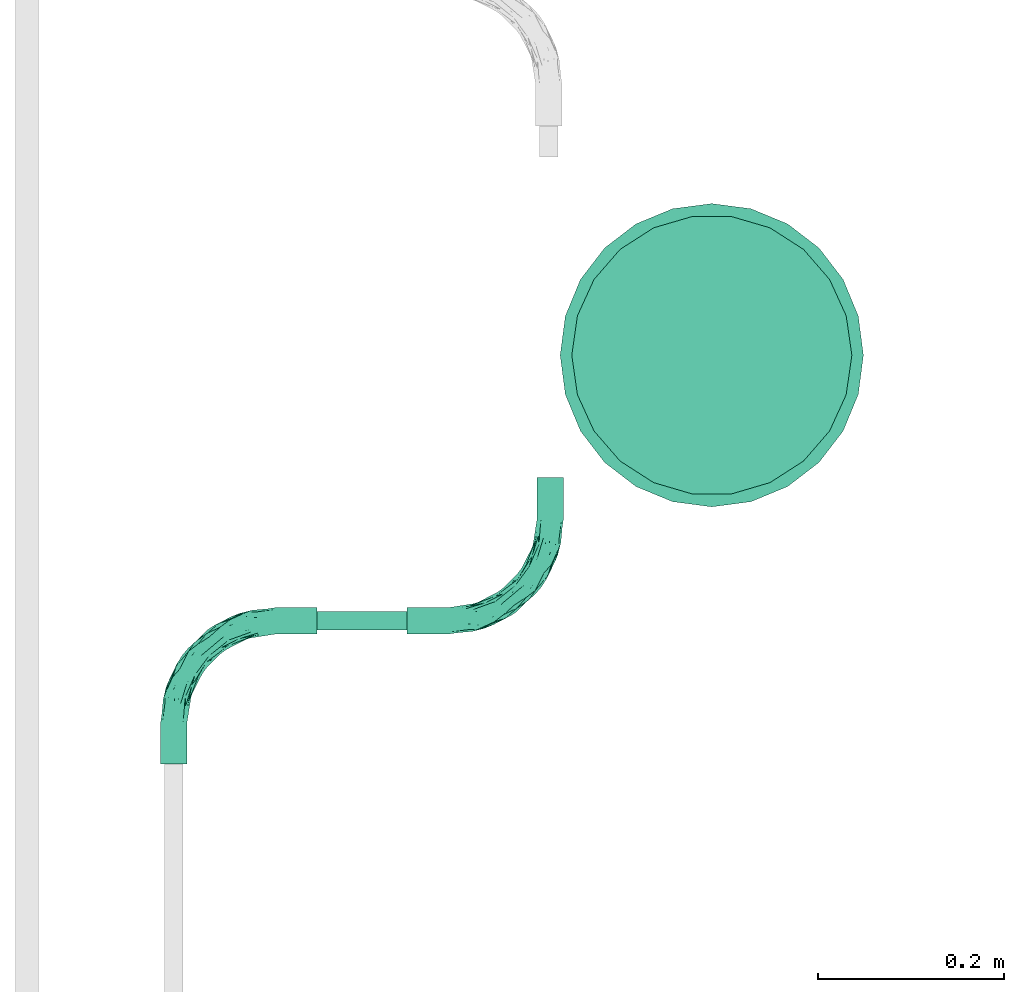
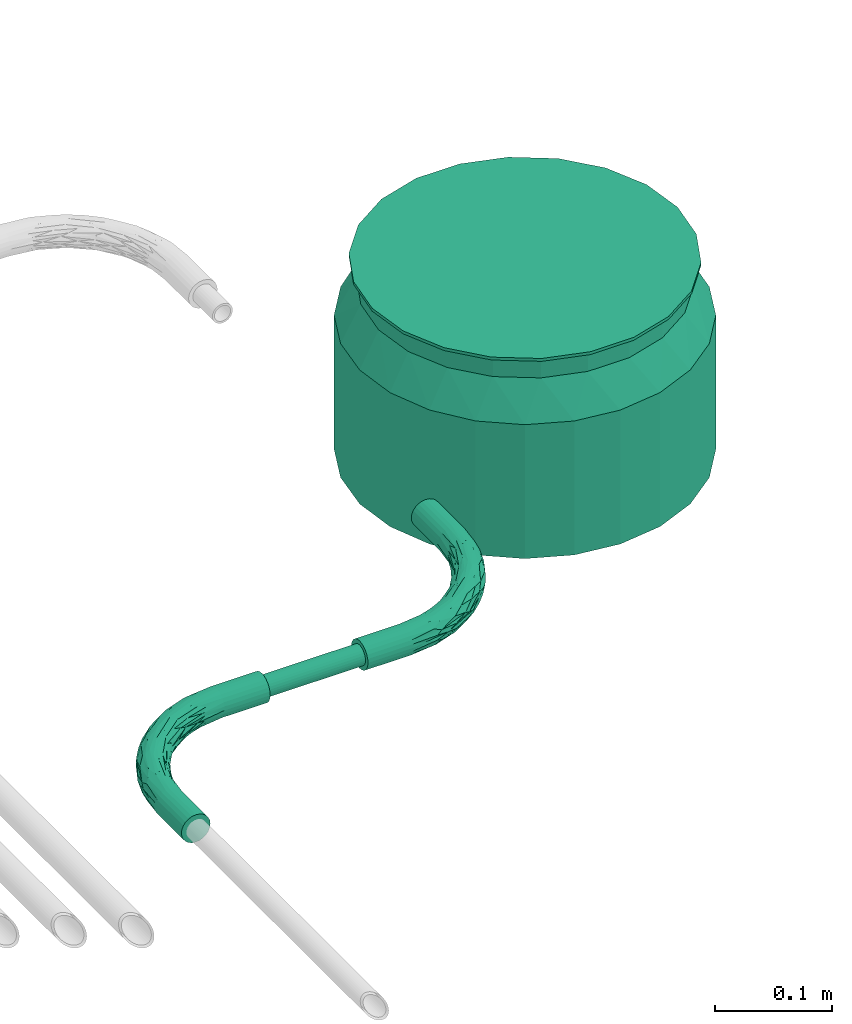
# One storey, part 5 of 51: 2 flow fittings, 1 flow segment, 1 flow terminal.
"""IFC2X3 building model written with IfcOpenShell, lengths in millimetres."""

import ifcopenshell
import ifcopenshell.guid

model = None  # the IFC model being written
_history = None  # IfcOwnerHistory: only IFC2X3 demands one
_inside = {}  # id of a spatial element -> (the spatial element, [elements in it])
_under = {}  # id of a project, library or spatial element -> (it, [spatial elements below it])
_declared = {}  # id of a project -> (the project, [libraries it declares])
_typed = {}  # id of a type object -> (the type object, [elements of that type])
_made_of = {}  # id of a material, layer set ... -> (it, [elements and type objects made of it])


def new_model(schema):
    """Start an empty IFC model of exactly this schema.

    Asked for "IFC4X3", IfcOpenShell would pick the latest addendum, in which some entities
    have other attributes; the version numbers below select the first issue.
    IFC2X3 requires an IfcOwnerHistory on every rooted entity: one is made here for all.
    """
    global model, _history
    if schema == "IFC4X3":
        model = ifcopenshell.file(schema_version=(4, 3, 0, 0))
    else:
        model = ifcopenshell.file(schema=schema)
    _inside.clear()
    _under.clear()
    _declared.clear()
    _typed.clear()
    _made_of.clear()
    _history = None
    if model.schema == "IFC2X3":
        org = make("IfcOrganization", Name="unknown")
        user = make(
            "IfcPersonAndOrganization",
            ThePerson=make("IfcPerson", FamilyName="unknown"),
            TheOrganization=org,
        )
        app = make(
            "IfcApplication",
            ApplicationDeveloper=org,
            Version="unknown",
            ApplicationFullName="unknown",
            ApplicationIdentifier="unknown",
        )
        _history = make(
            "IfcOwnerHistory",
            OwningUser=user,
            OwningApplication=app,
            ChangeAction="ADDED",
            CreationDate=0,
        )
    return model


def make(cls, **values):
    """One entity of the class cls with the attributes given. An attribute that is None is left unset."""
    return model.create_entity(
        cls, **{name: value for name, value in values.items() if value is not None}
    )


def entity(cls, *values):
    """Any entity or typed value of the class cls, its attributes in the order of the schema. None: left unset."""
    e = model.create_entity(cls)
    for i, value in enumerate(values):
        if value is not None:
            e[i] = value
    return e


def rooted(cls, **values):
    """An entity with a GlobalId (a new one), such as an element, a storey or a relation."""
    return make(cls, GlobalId=ifcopenshell.guid.new(), OwnerHistory=_history, **values)


def si_unit(unit_type, name, prefix=None):
    """IfcSIUnit, for example si_unit("LENGTHUNIT", "METRE", prefix="MILLI")."""
    return make("IfcSIUnit", UnitType=unit_type, Prefix=prefix, Name=name)


def converted_unit(unit_type, name, factor, base, dimensions=None, offset=None):
    """IfcConversionBasedUnit, such as the inch: factor (a typed value) times the base unit."""
    return make(
        "IfcConversionBasedUnit"
        if offset is None
        else "IfcConversionBasedUnitWithOffset",
        ConversionOffset=offset,
        Dimensions=None
        if dimensions is None
        else entity("IfcDimensionalExponents", *dimensions),
        UnitType=unit_type,
        Name=name,
        ConversionFactor=make(
            "IfcMeasureWithUnit", ValueComponent=factor, UnitComponent=base
        ),
    )


def derived_unit(unit_type, elements):
    """IfcDerivedUnit: a product of units, each with its exponent."""
    return make(
        "IfcDerivedUnit",
        Elements=[
            make("IfcDerivedUnitElement", Unit=unit, Exponent=power)
            for unit, power in elements
        ],
        UnitType=unit_type,
    )


def assignment(units):
    """IfcUnitAssignment: the units of a project."""
    return None if units is None else make("IfcUnitAssignment", Units=units)


def point(xyz):
    """IfcCartesianPoint."""
    return None if xyz is None else make("IfcCartesianPoint", Coordinates=xyz)


def direction(xyz):
    """IfcDirection."""
    return None if xyz is None else make("IfcDirection", DirectionRatios=xyz)


def frame(location, z_axis=None, x_axis=None):
    """IfcAxis2Placement3D, a coordinate frame: its origin and axes. An axis left out is left unset."""
    return make(
        "IfcAxis2Placement3D",
        Location=point(location),
        Axis=direction(z_axis),
        RefDirection=direction(x_axis),
    )


def frame_2d(location, x_axis=None):
    """IfcAxis2Placement2D, a coordinate frame in the plane: its origin and x axis."""
    return make(
        "IfcAxis2Placement2D", Location=point(location), RefDirection=direction(x_axis)
    )


def origin_with_axes():
    """The frame at (0, 0, 0) with the z axis (0, 0, 1) and the x axis (1, 0, 0) written out."""
    return frame((0.0, 0.0, 0.0), z_axis=(0.0, 0.0, 1.0), x_axis=(1.0, 0.0, 0.0))


def origin_2d_with_axis():
    """The frame at (0, 0) in the plane with the x axis (1, 0) written out."""
    return frame_2d((0.0, 0.0), x_axis=(1.0, 0.0))


def place(relative_to, where):
    """IfcLocalPlacement: puts the frame where relative to a parent placement (None: the world)."""
    return make(
        "IfcLocalPlacement", PlacementRelTo=relative_to, RelativePlacement=where
    )


def context(
    kind, dimensions, precision=None, world=None, true_north=None, identifier=None
):
    """IfcGeometricRepresentationContext, for example the 3D "Model" context."""
    return make(
        "IfcGeometricRepresentationContext",
        ContextIdentifier=identifier,
        ContextType=kind,
        CoordinateSpaceDimension=dimensions,
        Precision=precision,
        WorldCoordinateSystem=world,
        TrueNorth=true_north,
    )


def subcontext(parent, identifier, kind, view, scale=None):
    """IfcGeometricRepresentationSubContext, for example "Body" below "Model"."""
    return make(
        "IfcGeometricRepresentationSubContext",
        ContextIdentifier=identifier,
        ContextType=kind,
        ParentContext=parent,
        TargetScale=scale,
        TargetView=view,
    )


def project(units=None, contexts=None):
    """IfcProject with its units and contexts."""
    return rooted(
        "IfcProject",
        Name="project",
        RepresentationContexts=contexts,
        UnitsInContext=assignment(units),
    )


def spatial(cls, under=None, at=None, **own):
    """A site, building, storey or space (cls), placed at a placement, below another one or the project."""
    s = rooted(cls, ObjectPlacement=at, **own)
    if under is not None:
        _under.setdefault(under.id(), (under, []))[1].append(s)
    return s


def profile(cls, at=None, kind="AREA", **sizes):
    """A parametric profile (cls). Its sizes go by their IFC names, for example OverallWidth=200.0."""
    return make(cls, ProfileType=kind, Position=at, **sizes)


def hollow_circle(**sizes):
    """IfcCircleHollowProfileDef."""
    return profile("IfcCircleHollowProfileDef", **sizes)


def extrude(swept, where, along, depth):
    """IfcExtrudedAreaSolid: the profile swept, set in the frame where, extruded along a direction by depth."""
    return make(
        "IfcExtrudedAreaSolid",
        SweptArea=swept,
        Position=where,
        ExtrudedDirection=direction(along),
        Depth=depth,
    )


def faces_of(points, faces, orient=None, outer=None):
    """IfcFace entities. A face is a list of loops; a loop is a list of indices into points, from 0.

    orient and outer hold one flag for each loop. By default every Orientation is true, the
    first loop of a face is its IfcFaceOuterBound and the others are IfcFaceBound.
    """
    made = []
    for i, loops in enumerate(faces):
        bounds = []
        for j, loop in enumerate(loops):
            is_outer = j == 0 if outer is None else outer[i][j]
            bounds.append(
                make(
                    "IfcFaceOuterBound" if is_outer else "IfcFaceBound",
                    Bound=make("IfcPolyLoop", Polygon=[points[k] for k in loop]),
                    Orientation=True if orient is None else orient[i][j],
                )
            )
        made.append(make("IfcFace", Bounds=bounds))
    return made


def open_shell(faces, orient=None, outer=None):
    """The faces of one IfcOpenShell. surface_model builds it on its shared points."""
    return ("IfcOpenShell", faces, orient, outer)


def surface_model(cls, points, shells):
    """IfcFaceBasedSurfaceModel or IfcShellBasedSurfaceModel (cls): surfaces that need not close."""
    shared = [point(p) for p in points]
    made = [make(c, CfsFaces=faces_of(shared, fs, o, b)) for c, fs, o, b in shells]
    if cls == "IfcFaceBasedSurfaceModel":
        return make(cls, FbsmFaces=made)
    return make(cls, SbsmBoundary=made)


def shape(context_of_items, identifier, shape_type, items):
    """IfcShapeRepresentation: the items that make up one representation, for example the "Body"."""
    return make(
        "IfcShapeRepresentation",
        ContextOfItems=context_of_items,
        RepresentationIdentifier=identifier,
        RepresentationType=shape_type,
        Items=items,
    )


def source(mapping_origin, context_of_items, identifier, shape_type, items):
    """IfcRepresentationMap: a shape defined once, which mapped items show again and again."""
    return make(
        "IfcRepresentationMap",
        MappingOrigin=mapping_origin,
        MappedRepresentation=shape(context_of_items, identifier, shape_type, items),
    )


def transform(
    local_origin,
    x_axis=None,
    y_axis=None,
    z_axis=None,
    scale=None,
    scale2=None,
    scale3=None,
    uniform=True,
):
    """IfcCartesianTransformationOperator3D, or its non-uniform kind. x_axis, y_axis, z_axis: its Axis1, 2, 3."""
    if uniform:
        return make(
            "IfcCartesianTransformationOperator3D",
            Axis1=direction(x_axis),
            Axis2=direction(y_axis),
            LocalOrigin=point(local_origin),
            Scale=scale,
            Axis3=direction(z_axis),
        )
    return make(
        "IfcCartesianTransformationOperator3DnonUniform",
        Axis1=direction(x_axis),
        Axis2=direction(y_axis),
        LocalOrigin=point(local_origin),
        Scale=scale,
        Axis3=direction(z_axis),
        Scale2=scale2,
        Scale3=scale3,
    )


def mapped(mapping_source, mapping_target):
    """IfcMappedItem: shows the shape of a source again, moved by a transform."""
    return make(
        "IfcMappedItem", MappingSource=mapping_source, MappingTarget=mapping_target
    )


def made_of(thing, what):
    """Note that an element or type object is made of a material, layer set ...; save() writes the relation."""
    if what is not None:
        _made_of.setdefault(what.id(), (what, []))[1].append(thing)
    return thing


def type_object(cls, material=None, **own):
    """A type object (cls), such as IfcWallType, which elements share."""
    return made_of(rooted(cls, **own), material)


def element(
    cls,
    number,
    at=None,
    inside=None,
    cuts=None,
    type_object=None,
    material=None,
    context=None,
    identifier="Body",
    shape_type=None,
    held_by="IfcProductDefinitionShape",
    body=None,
    shapes=None,
    **own,
):
    """One element of the class cls, such as IfcWall. Its Tag is "e" and its number.

    at: its placement. inside: the storey or other place that contains it. cuts: it is an
    opening in that element (IfcRelVoidsElement). A single representation is given by context,
    identifier, shape_type and body (its items); several are given by shapes. held_by: the class
    of the entity that holds the representations. save() writes the other relations.
    """
    e = rooted(cls, Tag="e%d" % number, ObjectPlacement=at, **own)
    if body is not None:
        shapes = [shape(context, identifier, shape_type, body)]
    if shapes is not None:
        e.Representation = make(held_by, Representations=shapes)
    if inside is not None:
        _inside.setdefault(inside.id(), (inside, []))[1].append(e)
    if cuts is not None:
        rooted(
            "IfcRelVoidsElement", RelatingBuildingElement=cuts, RelatedOpeningElement=e
        )
    if type_object is not None:
        _typed.setdefault(type_object.id(), (type_object, []))[1].append(e)
    return made_of(e, material)


def aggregate(whole, parts):
    """IfcRelAggregates: a whole, such as a stair, and the parts it consists of."""
    return rooted("IfcRelAggregates", RelatingObject=whole, RelatedObjects=parts)


def save(model, path):
    """Write the relations noted so far, then the file.

    IfcRelAggregates (storeys below a building ...), IfcRelContainedInSpatialStructure (elements
    in a storey), IfcRelDefinesByType, IfcRelAssociatesMaterial and IfcRelDeclares: one each for
    every whole, place, type object, material and project.
    """
    for whole, parts in _under.values():
        aggregate(whole, parts)
    for where, things in _inside.values():
        rooted(
            "IfcRelContainedInSpatialStructure",
            RelatedElements=things,
            RelatingStructure=where,
        )
    for kind, things in _typed.values():
        rooted("IfcRelDefinesByType", RelatedObjects=things, RelatingType=kind)
    for what, things in _made_of.values():
        rooted("IfcRelAssociatesMaterial", RelatedObjects=things, RelatingMaterial=what)
    for by, libraries in _declared.values():
        rooted("IfcRelDeclares", RelatingContext=by, RelatedDefinitions=libraries)
    model.write(path)


model = new_model("IFC2X3")

# Units and contexts
model_context = context("Model", 3, precision=0.01, world=frame((0.0, 4.29681676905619e-09, 0.0)), true_north=direction((4.01073788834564e-13, 1.0)))
plan_context = context("Plan", 3, precision=0.01, world=frame((0.0, 4.29681676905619e-09, 0.0)), true_north=direction((4.01073788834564e-13, 1.0)))
body_context = subcontext(model_context, "Body", "Model", "MODEL_VIEW")
ifc_project = project(units=[converted_unit("PLANEANGLEUNIT", "DEGREE", entity("IfcPositiveLengthMeasure", 0.0174532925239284), si_unit("PLANEANGLEUNIT", "RADIAN"), dimensions=[0, 0, 0, 0, 0, 0, 0]), si_unit("AREAUNIT", "SQUARE_METRE"), si_unit("LENGTHUNIT", "METRE", prefix="MILLI"), si_unit("MASSUNIT", "GRAM", prefix="KILO"), si_unit("POWERUNIT", "WATT"), si_unit("PRESSUREUNIT", "PASCAL"), si_unit("FORCEUNIT", "NEWTON", prefix="KILO"), si_unit("ELECTRICVOLTAGEUNIT", "VOLT"), si_unit("ELECTRICCURRENTUNIT", "AMPERE"), si_unit("THERMODYNAMICTEMPERATUREUNIT", "DEGREE_CELSIUS"), si_unit("TIMEUNIT", "SECOND"), si_unit("VOLUMEUNIT", "CUBIC_METRE"), derived_unit("LINEARVELOCITYUNIT", [(si_unit("LENGTHUNIT", "METRE"), 1), (si_unit("TIMEUNIT", "SECOND"), -1)]), derived_unit("VOLUMETRICFLOWRATEUNIT", [(si_unit("VOLUMEUNIT", "CUBIC_METRE"), 1), (si_unit("TIMEUNIT", "SECOND"), -1)]), derived_unit("THERMALTRANSMITTANCEUNIT", [(si_unit("POWERUNIT", "WATT"), 1), (si_unit("THERMODYNAMICTEMPERATUREUNIT", "KELVIN"), -1), (si_unit("AREAUNIT", "SQUARE_METRE"), -1)]), derived_unit("SOUNDPRESSUREUNIT", [(si_unit("PRESSUREUNIT", "PASCAL"), 1)])], contexts=[model_context, plan_context])

# Site, building, storey
site_placement = place(None, frame((0.0, -4.29681676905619e-09, 0.0), z_axis=(0.0, 0.0, 1.0), x_axis=(1.0, 0.0, 0.0)))
site = spatial("IfcSite", under=ifc_project, at=site_placement, Name="ENGM", CompositionType="ELEMENT")
building_placement = place(site_placement, frame((0.0, 4.29681676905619e-09, 0.0), z_axis=(0.0, 0.0, 1.0), x_axis=(1.0, 0.0, 0.0)))
building = spatial("IfcBuilding", under=site, at=building_placement, Name="TI", CompositionType="ELEMENT")
storey_placement = place(building_placement, frame((0.0, 0.0, 210900.0), z_axis=(0.0, 0.0, 1.0), x_axis=(1.0, 0.0, 0.0)))
storey = spatial("IfcBuildingStorey", under=building, at=storey_placement, Name="Nivå F", CompositionType="ELEMENT", Elevation=210900.0)

# Flow fittings
cable_carrier_fitting_type = type_object("IfcCableCarrierFittingType", Name="Trekkerør, glatt bend", PredefinedType="BEND")
shared_shape_1 = source(origin_with_axes(), body_context, "Body", "SurfaceModel", [
    surface_model("IfcShellBasedSurfaceModel", [(-154.55625, 0.0, -14.27109), (-154.55625, -13.78482, -3.69363), (-154.55625, 3.69363, -13.78482), (-154.55625, 7.13555, -12.35913), (-154.55625, 12.35913, -7.13555), (-154.55625, -14.27109, 0.0), (-154.55625, 10.09119, -10.09119), (-154.55625, -13.78482, 3.69363), (-154.55625, -10.09119, -10.09119), (-154.55625, -12.35913, -7.13555), (-154.55625, -7.13555, -12.35913), (-154.55625, -3.69363, -13.78482), (-154.55625, 13.78482, -3.69363), (-154.55625, 14.27109, 0.0), (-154.55625, -12.35913, 7.13555), (-154.55625, 13.78482, 3.69363), (-154.55625, 12.35913, 7.13555), (-154.55625, 7.13555, 12.35913), (-154.55625, -3.69363, 13.78482), (-154.55625, 10.09119, 10.09119), (-154.55625, 3.69363, 13.78482), (-154.55625, 0.0, 14.27109), (-154.55625, -10.09119, 10.09119), (-154.55625, -7.13555, 12.35913), (-109.53828, -14.27109, 0.0), (-109.53828, -13.78482, 3.69363), (-109.53828, -12.35913, 7.13555), (-109.53828, -10.09119, 10.09119), (-109.53828, -7.13555, 12.35913), (-109.53828, -3.69363, 13.78482), (-109.53828, 0.0, 14.27109), (-109.53828, 3.69363, 13.78482), (-109.53828, 7.13555, 12.35913), (-109.53828, 10.09119, 10.09119), (-109.53828, 12.35913, 7.13555), (-109.53828, 13.78482, 3.69363), (-109.53828, 14.27109, 0.0), (-109.53828, 13.78482, -3.69363), (-109.53828, 12.35913, -7.13555), (-109.53828, 10.09119, -10.09119), (-109.53828, 7.13555, -12.35913), (-109.53828, 3.69363, -13.78482), (-109.53828, 0.0, -14.27109), (-109.53828, -3.69363, -13.78482), (-109.53828, -7.13555, -12.35913), (-109.53828, -10.09119, -10.09119), (-109.53828, -12.35913, -7.13555), (-109.53828, -13.78482, -3.69363), (-3.69363, 109.53828, 13.78482), (-7.1534, 89.99414, 13.24855), (-5.52615, 80.75509, 14.17919), (-60.76988, -1.31586, 8.35584), (-86.74719, -9.26979, 8.53701), (-78.43143, -9.27777, 5.21969), (-54.57322, 16.38341, 14.20456), (-37.47603, 23.87443, 14.06701), (-28.15284, 38.55475, 14.18707), (-61.24691, 4.75102, 13.02092), (-78.33811, -4.70928, 11.16152), (-49.9274, 6.84288, 10.90618), (-95.50078, -12.04777, 0.0), (-71.27908, -8.21143, 0.0), (-84.10609, -11.40642, 2.49425), (-84.40829, 4.61635, 14.17552), (-21.30634, 35.06714, 12.98487), (-25.5172, 25.5172, 10.83717), (-6.52074, 51.84045, 11.43645), (-14.9351, 49.72791, 14.07022), (-36.13298, 13.4524, 8.61377), (-48.07555, 3.07814, 4.93607), (-22.8399, 22.8399, 5.72655), (-61.42092, -4.26023, 2.69213), (-43.25505, 5.21821, 2.45459), (-76.37759, 10.60152, 13.29307), (-84.26876, 11.72213, 11.45557), (-16.10152, 32.64981, 8.49548), (-91.7629, 12.84689, 8.81067), (-78.89232, 2.16712, 14.11264), (-86.94002, -3.39666, 13.1113), (-53.54164, 32.46551, 0.0), (-80.0991, 18.9338, 0.0), (-65.27277, 24.4813, 4.15685), (-70.11513, 19.34285, 8.96525), (-58.85951, 26.77111, 6.9074), (-87.03749, 15.77002, 5.64275), (-7.13555, 109.53828, 12.35913), (-10.09119, 109.53828, 10.09119), (-12.24312, 82.27842, 11.46622), (-88.43996, 16.36335, 2.74565), (-0.11486, 73.25678, 13.06442), (7.13555, 109.53828, 12.35913), (3.69363, 109.53828, 13.78482), (-41.93843, 41.93843, 3.06688), (-41.06778, 41.06778, 6.49711), (-12.84689, 91.7629, 8.81067), (-12.35913, 109.53828, 7.13555), (5.39094, 64.47541, 3.19158), (-3.07814, 48.07555, 4.93607), (-3.51803, 45.96754, 2.3263), (-36.76496, 9.37439, 0.0), (-23.06967, 23.06967, 0.0), (0.0, 109.53828, 14.27109), (-0.81133, 84.32322, 14.11955), (-41.69927, 29.72188, 13.44421), (12.35913, 109.53828, 7.13555), (9.27777, 78.43143, 5.21969), (13.78482, 109.53828, 3.69363), (-57.22502, 11.42573, 14.17543), (9.26979, 86.74719, 8.53701), (1.31586, 60.76988, 8.35584), (5.72038, 82.4285, 11.18319), (11.40642, 84.10609, 2.49425), (-59.15779, 20.7896, 12.14962), (-18.9338, 80.0991, 0.0), (-32.46551, 53.54164, 0.0), (-24.4813, 65.27277, 4.15685), (-16.36335, 88.43996, 2.74565), (-14.27109, 109.53828, 0.0), (-8.62571, 53.03293, 12.89354), (-13.78482, 109.53828, 3.69363), (-15.77002, 87.03749, 5.64275), (-37.83174, 37.83174, 11.72896), (-22.74629, 58.47709, 11.20332), (-35.02355, 44.66648, 9.39592), (-51.28798, 28.82677, 10.17947), (-14.20714, 66.91103, 13.32458), (10.09119, 109.53828, 10.09119), (12.04777, 95.50078, 0.0), (-26.77111, 58.85951, 6.9074), (-19.34285, 70.11513, 8.96525), (-22.27171, 49.8428, 13.75381), (-14.02071, 58.08047, 14.23303), (-38.19919, 17.37508, 12.43121), (-25.3167, 50.04426, 12.74411), (-58.12909, 18.65185, 13.32115), (-15.5265, 29.44086, 2.9254), (-54.02202, 0.58148, 0.0), (-9.37439, 36.76496, 0.0), (-0.58148, 54.02202, 0.0), (8.21143, 71.27908, 0.0), (14.27109, 109.53828, 0.0), (-82.27842, 12.24312, -11.46622), (-16.38341, 54.57322, -14.20456), (-23.87443, 37.47603, -14.06701), (-38.55475, 28.15284, -14.18707), (-91.7629, 12.84689, -8.81067), (-24.4813, 65.27277, -4.15685), (-88.43996, 16.36335, -2.74565), (-65.27277, 24.4813, -4.15685), (-87.03749, 15.77002, -5.64275), (12.35913, 109.53828, -7.13555), (13.78482, 109.53828, -3.69363), (9.27777, 78.43143, -5.21969), (-84.10609, -11.40642, -2.49425), (-61.42092, -4.26023, -2.69213), (-41.93843, 41.93843, -3.06688), (-4.61635, 84.40829, -14.17552), (-3.69363, 109.53828, -13.78482), (0.0, 109.53828, -14.27109), (-48.07555, 3.07814, -4.93607), (-78.43143, -9.27777, -5.21969), (-60.76988, -1.31586, -8.35584), (-82.4285, -5.72038, -11.18319), (-51.84045, 6.52074, -11.43645), (-86.74719, -9.26979, -8.53701), (3.39666, 86.94002, -13.1113), (4.70928, 78.33811, -11.16152), (-4.75102, 61.24691, -13.02092), (-3.51803, 45.96754, -2.3263), (-15.5265, 29.44086, -2.9254), (-73.25678, 0.11486, -13.06442), (11.40642, 84.10609, -2.49425), (-84.32322, 0.81133, -14.11955), (-11.42573, 57.22502, -14.17543), (-3.07814, 48.07555, -4.93607), (1.31586, 60.76988, -8.35584), (-89.99414, 7.1534, -13.24855), (-10.60152, 76.37759, -13.29307), (-6.84288, 49.9274, -10.90618), (-2.16712, 78.89232, -14.11264), (-13.4524, 36.13298, -8.61377), (-25.5172, 25.5172, -10.83717), (-13.78482, 109.53828, -3.69363), (-16.36335, 88.43996, -2.74565), (3.69363, 109.53828, -13.78482), (-26.77111, 58.85951, -6.9074), (-15.77002, 87.03749, -5.64275), (-19.34285, 70.11513, -8.96525), (-12.35913, 109.53828, -7.13555), (-80.75509, 5.52615, -14.17919), (10.09119, 109.53828, -10.09119), (9.26979, 86.74719, -8.53701), (-10.09119, 109.53828, -10.09119), (-7.13555, 109.53828, -12.35913), (-11.72213, 84.26876, -11.45557), (-35.06714, 21.30634, -12.98487), (-32.64981, 16.10152, -8.49548), (-41.06778, 41.06777, -6.49711), (-29.72188, 41.69927, -13.44421), (7.13555, 109.53828, -12.35913), (-58.47709, 22.74629, -11.20332), (-66.91103, 14.20714, -13.32458), (-22.8399, 22.8399, -5.72655), (-49.72791, 14.9351, -14.07022), (-44.66648, 35.02355, -9.39592), (-28.82677, 51.28798, -10.17947), (-37.83174, 37.83174, -11.72896), (-20.7896, 59.15779, -12.14962), (-43.25505, 5.21821, -2.45459), (-53.03293, 8.62571, -12.89354), (-12.84689, 91.7629, -8.81067), (-58.85951, 26.77111, -6.9074), (-70.11513, 19.34285, -8.96525), (-49.8428, 22.27171, -13.75381), (-58.08047, 14.02071, -14.23303), (-17.37508, 38.19919, -12.43121), (-50.04426, 25.3167, -12.74411), (-18.65185, 58.12909, -13.32115), (5.39094, 64.47541, -3.19158), (-13.78482, 154.55625, -3.69363), (0.0, 154.55625, -14.27109), (-3.69363, 154.55625, -13.78482), (-12.35913, 154.55625, -7.13555), (-7.13555, 154.55625, -12.35913), (-10.09119, 154.55625, -10.09119), (14.27109, 154.55625, 0.0), (7.13555, 154.55625, -12.35913), (12.35913, 154.55625, -7.13555), (10.09119, 154.55625, -10.09119), (3.69363, 154.55625, -13.78482), (13.78482, 154.55625, -3.69363), (-14.27109, 154.55625, 0.0), (13.78482, 154.55625, 3.69363), (-13.78482, 154.55625, 3.69363), (-7.13555, 154.55625, 12.35913), (-12.35913, 154.55625, 7.13555), (-10.09119, 154.55625, 10.09119), (0.0, 154.55625, 14.27109), (-3.69363, 154.55625, 13.78482), (10.09119, 154.55625, 10.09119), (12.35913, 154.55625, 7.13555), (3.69363, 154.55625, 13.78482), (7.13555, 154.55625, 12.35913)], [open_shell([[[0, 1, 2]], [[3, 2, 4]], [[5, 4, 2]], [[6, 3, 4]], [[5, 7, 4]], [[8, 9, 10]], [[0, 11, 10]], [[9, 1, 10]], [[1, 0, 10]], [[2, 1, 5]], [[7, 12, 4]], [[13, 14, 15]], [[16, 15, 17]], [[17, 15, 18]], [[19, 16, 17]], [[20, 17, 21]], [[22, 18, 14]], [[13, 7, 14]], [[23, 18, 22]], [[14, 18, 15]], [[18, 21, 17]], [[12, 7, 13]], [[7, 24, 25]], [[26, 14, 25]], [[23, 27, 28]], [[26, 27, 22]], [[18, 28, 29]], [[24, 7, 5]], [[25, 14, 7]], [[26, 22, 14]], [[27, 23, 22]], [[18, 23, 28]], [[29, 21, 18]], [[29, 30, 21]], [[17, 31, 32]], [[33, 19, 32]], [[15, 34, 35]], [[33, 34, 16]], [[13, 35, 36]], [[31, 20, 30]], [[31, 17, 20]], [[30, 20, 21]], [[32, 19, 17]], [[33, 16, 19]], [[15, 16, 34]], [[35, 13, 15]], [[12, 36, 37]], [[38, 4, 37]], [[3, 39, 40]], [[38, 39, 6]], [[2, 40, 41]], [[36, 12, 13]], [[37, 4, 12]], [[38, 6, 4]], [[39, 3, 6]], [[2, 3, 40]], [[41, 0, 2]], [[41, 42, 0]], [[10, 43, 44]], [[45, 8, 44]], [[1, 46, 47]], [[45, 46, 9]], [[5, 47, 24]], [[43, 11, 42]], [[43, 10, 11]], [[42, 11, 0]], [[44, 8, 10]], [[45, 9, 8]], [[1, 9, 46]], [[47, 5, 1]], [[48, 49, 50]], [[51, 52, 53]], [[54, 55, 56]], [[57, 58, 59]], [[60, 61, 62]], [[63, 31, 30]], [[58, 28, 27]], [[25, 60, 62]], [[64, 65, 66]], [[27, 52, 58]], [[67, 55, 64]], [[68, 69, 70]], [[71, 72, 69]], [[31, 73, 32]], [[26, 25, 53]], [[33, 32, 74]], [[75, 65, 68]], [[34, 33, 76]], [[77, 29, 78]], [[53, 69, 51]], [[79, 80, 81]], [[82, 83, 84]], [[85, 86, 87]], [[36, 35, 88]], [[35, 34, 84]], [[89, 90, 91]], [[92, 81, 93]], [[94, 86, 95]], [[28, 78, 29]], [[96, 97, 98]], [[99, 100, 72]], [[29, 77, 30]], [[101, 50, 102]], [[59, 58, 51]], [[54, 56, 103]], [[101, 102, 91]], [[104, 105, 106]], [[85, 49, 48]], [[107, 57, 55]], [[105, 104, 108]], [[97, 105, 109]], [[89, 110, 90]], [[68, 65, 59]], [[111, 106, 105]], [[63, 54, 73]], [[112, 82, 74]], [[113, 114, 115]], [[92, 115, 114]], [[77, 63, 30]], [[113, 116, 117]], [[48, 50, 101]], [[27, 26, 52]], [[64, 66, 118]], [[95, 119, 120]], [[116, 115, 120]], [[114, 79, 92]], [[121, 122, 123]], [[123, 124, 121]], [[122, 125, 87]], [[87, 86, 94]], [[109, 110, 66]], [[74, 32, 73]], [[90, 110, 126]], [[104, 126, 108]], [[78, 58, 57]], [[121, 112, 103]], [[75, 97, 109]], [[106, 111, 127]], [[84, 88, 35]], [[83, 93, 81]], [[93, 128, 115]], [[94, 120, 129]], [[125, 130, 131]], [[102, 67, 89]], [[122, 87, 129]], [[49, 87, 125]], [[66, 110, 89]], [[108, 110, 109]], [[118, 67, 64]], [[66, 65, 75]], [[112, 74, 73]], [[76, 74, 82]], [[63, 77, 107]], [[73, 31, 63]], [[102, 50, 131]], [[89, 91, 102]], [[67, 56, 55]], [[65, 132, 59]], [[107, 55, 54]], [[132, 55, 57]], [[131, 50, 125]], [[125, 122, 133]], [[134, 54, 103]], [[112, 121, 124]], [[134, 112, 73]], [[133, 130, 125]], [[53, 62, 71]], [[70, 69, 72]], [[97, 70, 135]], [[97, 135, 98]], [[84, 34, 76]], [[88, 81, 80]], [[116, 120, 119]], [[120, 115, 128]], [[81, 92, 79]], [[115, 92, 93]], [[58, 78, 28]], [[77, 78, 57]], [[53, 52, 26]], [[58, 52, 51]], [[110, 108, 126]], [[105, 108, 109]], [[68, 59, 51]], [[65, 64, 132]], [[69, 68, 51]], [[75, 68, 70]], [[97, 75, 70]], [[66, 75, 109]], [[87, 49, 85]], [[50, 49, 125]], [[129, 128, 123]], [[122, 121, 133]], [[129, 123, 122]], [[83, 124, 123]], [[83, 123, 93]], [[112, 124, 82]], [[121, 103, 133]], [[130, 103, 56]], [[103, 130, 133]], [[130, 56, 131]], [[56, 67, 131]], [[102, 131, 67]], [[81, 88, 84]], [[36, 88, 80]], [[117, 116, 119]], [[115, 116, 113]], [[55, 132, 64]], [[57, 59, 132]], [[25, 24, 60]], [[71, 62, 61]], [[25, 62, 53]], [[136, 99, 72]], [[53, 71, 69]], [[72, 71, 136]], [[137, 135, 100]], [[100, 135, 72]], [[135, 137, 98]], [[72, 135, 70]], [[98, 137, 138]], [[139, 111, 96]], [[71, 61, 136]], [[96, 138, 139]], [[127, 111, 139]], [[127, 140, 106]], [[96, 111, 105]], [[97, 96, 105]], [[96, 98, 138]], [[74, 76, 33]], [[84, 76, 82]], [[120, 94, 95]], [[87, 94, 129]], [[84, 83, 81]], [[124, 83, 82]], [[123, 128, 93]], [[120, 128, 129]], [[66, 89, 118]], [[67, 118, 89]], [[63, 107, 54]], [[57, 107, 77]], [[54, 134, 73]], [[103, 112, 134]], [[39, 141, 40]], [[142, 143, 144]], [[141, 39, 145]], [[114, 113, 146]], [[147, 148, 149]], [[150, 151, 152]], [[80, 147, 36]], [[61, 153, 154]], [[80, 79, 148]], [[155, 148, 79]], [[156, 157, 158]], [[37, 149, 38]], [[159, 160, 161]], [[161, 162, 163]], [[160, 46, 164]], [[165, 166, 167]], [[153, 47, 160]], [[168, 137, 169]], [[162, 44, 170]], [[151, 127, 171]], [[172, 43, 42]], [[173, 167, 143]], [[46, 160, 47]], [[44, 43, 170]], [[152, 174, 175]], [[45, 164, 46]], [[41, 40, 176]], [[156, 142, 177]], [[178, 166, 175]], [[179, 156, 158]], [[79, 114, 155]], [[180, 181, 178]], [[117, 182, 183]], [[184, 179, 158]], [[185, 186, 187]], [[188, 186, 182]], [[41, 176, 189]], [[190, 150, 191]], [[192, 193, 194]], [[195, 181, 163]], [[184, 165, 179]], [[44, 162, 45]], [[196, 181, 180]], [[146, 197, 155]], [[142, 144, 198]], [[165, 184, 199]], [[166, 190, 191]], [[200, 201, 141]], [[157, 177, 193]], [[174, 202, 180]], [[190, 166, 199]], [[143, 195, 203]], [[166, 178, 167]], [[204, 205, 206]], [[171, 127, 139]], [[41, 189, 42]], [[206, 207, 198]], [[152, 175, 191]], [[194, 193, 177]], [[208, 202, 169]], [[206, 200, 204]], [[172, 42, 189]], [[195, 163, 209]], [[210, 188, 192]], [[207, 187, 194]], [[145, 39, 38]], [[196, 159, 161]], [[47, 153, 60]], [[186, 183, 182]], [[185, 197, 146]], [[197, 211, 148]], [[145, 149, 212]], [[201, 213, 214]], [[172, 203, 170]], [[200, 141, 212]], [[176, 141, 201]], [[163, 162, 170]], [[164, 162, 161]], [[209, 203, 195]], [[163, 181, 196]], [[207, 194, 177]], [[210, 194, 187]], [[156, 179, 173]], [[177, 157, 156]], [[172, 189, 214]], [[170, 43, 172]], [[203, 144, 143]], [[181, 215, 178]], [[173, 143, 142]], [[215, 143, 167]], [[214, 189, 201]], [[201, 200, 216]], [[217, 142, 198]], [[207, 206, 205]], [[217, 207, 177]], [[216, 213, 201]], [[152, 171, 218]], [[202, 174, 169]], [[100, 208, 169]], [[208, 136, 154]], [[186, 188, 210]], [[183, 146, 113]], [[147, 149, 37]], [[149, 148, 211]], [[146, 155, 114]], [[148, 155, 197]], [[166, 165, 199]], [[179, 165, 167]], [[152, 191, 150]], [[166, 191, 175]], [[162, 164, 45]], [[160, 164, 161]], [[180, 178, 175]], [[181, 195, 215]], [[174, 180, 175]], [[196, 180, 202]], [[159, 196, 202]], [[163, 196, 161]], [[141, 176, 40]], [[189, 176, 201]], [[212, 211, 204]], [[200, 206, 216]], [[212, 204, 200]], [[185, 205, 204]], [[185, 204, 197]], [[207, 205, 187]], [[206, 198, 216]], [[213, 198, 144]], [[198, 213, 216]], [[213, 144, 214]], [[144, 203, 214]], [[172, 214, 203]], [[146, 183, 186]], [[117, 183, 113]], [[36, 147, 37]], [[148, 147, 80]], [[143, 215, 195]], [[167, 178, 215]], [[60, 153, 61]], [[60, 24, 47]], [[154, 160, 159]], [[160, 154, 153]], [[208, 154, 159]], [[202, 208, 159]], [[151, 140, 127]], [[100, 169, 137]], [[99, 208, 100]], [[168, 169, 174]], [[218, 174, 152]], [[218, 138, 168]], [[136, 208, 99]], [[138, 137, 168]], [[136, 61, 154]], [[139, 138, 218]], [[151, 171, 152]], [[139, 218, 171]], [[174, 218, 168]], [[194, 210, 192]], [[186, 210, 187]], [[149, 145, 38]], [[141, 145, 212]], [[186, 185, 146]], [[205, 185, 187]], [[204, 211, 197]], [[149, 211, 212]], [[163, 170, 209]], [[203, 209, 170]], [[156, 173, 142]], [[167, 173, 179]], [[142, 217, 177]], [[198, 207, 217]], [[219, 220, 221]], [[222, 221, 223]], [[222, 219, 221]], [[222, 223, 224]], [[220, 219, 225]], [[226, 227, 228]], [[226, 229, 220]], [[226, 230, 227]], [[226, 220, 230]], [[225, 230, 220]], [[219, 231, 225]], [[232, 225, 233]], [[234, 233, 235]], [[232, 233, 234]], [[234, 235, 236]], [[237, 234, 238]], [[232, 239, 240]], [[239, 232, 241]], [[239, 241, 242]], [[232, 234, 241]], [[234, 237, 241]], [[233, 225, 231]], [[106, 225, 232]], [[240, 104, 232]], [[90, 239, 242]], [[240, 239, 126]], [[91, 242, 241]], [[225, 106, 140]], [[232, 104, 106]], [[240, 126, 104]], [[239, 90, 126]], [[91, 90, 242]], [[241, 101, 91]], [[241, 237, 101]], [[85, 238, 234]], [[236, 86, 234]], [[119, 235, 233]], [[236, 235, 95]], [[117, 233, 231]], [[238, 48, 237]], [[238, 85, 48]], [[237, 48, 101]], [[234, 86, 85]], [[236, 95, 86]], [[119, 95, 235]], [[233, 117, 119]], [[182, 231, 219]], [[222, 188, 219]], [[193, 224, 223]], [[222, 224, 192]], [[157, 223, 221]], [[231, 182, 117]], [[219, 188, 182]], [[222, 192, 188]], [[224, 193, 192]], [[157, 193, 223]], [[221, 158, 157]], [[221, 220, 158]], [[199, 229, 226]], [[228, 190, 226]], [[151, 227, 230]], [[228, 227, 150]], [[140, 230, 225]], [[229, 184, 220]], [[229, 199, 184]], [[220, 184, 158]], [[226, 190, 199]], [[228, 150, 190]], [[151, 150, 227]], [[230, 140, 151]]])]),
])
for number, where, z_axis, x_axis, name in (
    (1, (611382.66348, 689599.84468, -110.0), (0.0, 0.0, 1.0), (-1.0, 0.0, 0.0), "Trekkerør, glatt bend"),
    (2, (611788.38779, 689599.84468, -110.0), (0.0, 0.0, 1.0), (1.0, 0.0, 0.0), "Trekkerør, glatt bend"),
):
    element("IfcFlowFitting", number, at=place(storey_placement, frame(where, z_axis=z_axis, x_axis=x_axis)), inside=storey, type_object=cable_carrier_fitting_type, Name=name, context=body_context, shape_type="MappedRepresentation", body=[
        mapped(shared_shape_1, transform((0.0, 0.0, 0.0), scale=1.0)),
    ])

# Flow segment
cable_carrier_segment_type = type_object("IfcCableCarrierSegmentType", Name="Trekkerør, korrugert", PredefinedType="CONDUITSEGMENT")
shared_shape_2 = source(origin_with_axes(), body_context, "Body", "SweptSolid", [
    extrude(hollow_circle(Radius=10.0, WallThickness=2.0, at=origin_2d_with_axis()), frame((0.0, 0.0, 0.0), z_axis=(1.0, 0.0, 0.0), x_axis=(0.0, 1.0, 0.0)), (0.0, 0.0, 1.0), 96.6),
])
flow_segment_placement = place(storey_placement, frame((611537.21973, 689599.84468, -110.0), z_axis=(0.0, 0.0, 1.0), x_axis=(1.0, 0.0, 0.0)))
element("IfcFlowSegment", 3, at=flow_segment_placement, inside=storey, type_object=cable_carrier_segment_type, Name="Trekkerør, korrugert", context=body_context, shape_type="MappedRepresentation", body=[
    mapped(shared_shape_2, transform((0.0, 0.0, 0.0), scale=1.0)),
])

# Flow terminal
light_fixture_type = type_object("IfcLightFixtureType", Name="IB3223 Zumtobel Thorn MICA SLIM I 9L90 ACC 8D 840 RS SF", PredefinedType="NOTDEFINED")
shared_shape_3 = source(origin_with_axes(), body_context, "Body", "SurfaceModel", [
    surface_model("IfcShellBasedSurfaceModel", [(98.84497, 114.07318, 3.0), (98.84497, 114.07318, 6.02001), (126.97919, 81.60457, 6.02001), (126.97919, 81.60457, 3.0), (126.97919, -81.60457, 6.02001), (98.84497, -114.07318, 6.02001), (98.84497, -114.07318, 3.0), (126.97919, -81.60457, 3.0), (-115.55577, 115.55577, -193.98), (-141.52634, 81.71027, -53.97999), (-115.55577, 115.55577, -53.97999), (-141.52634, 81.71027, -193.98), (-157.85212, 42.29635, -53.97999), (-141.52634, -81.71027, -53.97999), (-157.85212, -42.29635, -53.97999), (-141.52634, -81.71027, -193.98), (-115.55577, -115.55577, -53.97999), (-115.55577, -115.55577, -193.98), (115.55577, 115.55577, -193.98), (0.0, 0.0, -193.98), (81.71027, 141.52634, -193.98), (0.0, 163.42053, -193.98), (42.29635, 157.85212, -193.98), (-163.42053, 0.0, -193.98), (-157.85212, 42.29635, -193.98), (81.71027, -141.52634, -193.98), (115.55577, -115.55577, -193.98), (42.29635, -157.85212, -193.98), (0.0, -163.42053, -193.98), (-157.85212, -42.29635, -193.98), (0.0, 0.0, 6.02001), (150.94045, 0.0, 6.02001), (144.8263, 42.52484, 6.02001), (-144.8263, 42.52484, 6.02001), (-150.94045, 0.0, 6.02001), (-62.70293, 137.30026, 6.02001), (-98.84497, 114.07318, 6.02001), (144.8263, -42.52484, 6.02001), (-98.84497, -114.07318, 6.02001), (-62.70293, -137.30026, 6.02001), (-144.8263, -42.52484, 6.02001), (121.68032, 78.1992, -18.66209), (121.68032, 78.1992, 3.0), (138.78267, 40.75027, 3.0), (94.72015, 109.31289, -18.66209), (94.72015, 109.31289, 3.0), (138.78267, 40.75027, -18.66209), (144.64168, 0.0, 3.0), (138.78267, -40.75027, 3.0), (121.68032, -78.1992, 3.0), (121.68032, -78.1992, -18.66209), (138.78267, -40.75027, -18.66209), (94.72015, -109.31289, 3.0), (94.72015, -109.31289, -18.66209), (-138.78267, 40.75027, -18.66209), (-94.72015, 109.31289, -18.66209), (-81.71027, 141.52634, -53.97999), (-20.58466, 143.16943, -18.66209), (0.0, 163.42053, -53.97999), (-42.29635, 157.85212, -53.97999), (60.08633, 131.57069, -18.66209), (81.71027, 141.52634, -53.97999), (20.58466, 143.16943, -18.66209), (42.29635, 157.85212, -53.97999), (144.64168, 0.0, -18.66209), (163.42053, 0.0, -53.97999), (157.85212, 42.29635, -53.97999), (81.71027, -141.52634, -53.97999), (60.08633, -131.57069, -18.66209), (42.29635, -157.85212, -53.97999), (20.58466, -143.16943, -18.66209), (157.85212, -42.29635, -53.97999), (-42.29635, -157.85212, -53.97999), (0.0, -163.42053, -53.97999), (-20.58466, -143.16943, -18.66209), (-138.78267, -40.75027, -18.66209), (-81.71027, -141.52634, -53.97999), (-94.72015, -109.31289, -18.66209), (-144.8263, -42.52484, 3.0), (-126.97919, -81.60457, 3.0), (-126.97919, -81.60457, 6.02001), (-62.70293, -137.30026, 3.0), (-98.84497, -114.07318, 3.0), (-21.48107, -149.40409, 6.02001), (-21.48107, -149.40409, 3.0), (-150.94045, 0.0, 3.0), (21.48107, -149.40409, 3.0), (21.48107, -149.40409, 6.02001), (62.70293, -137.30026, 3.0), (62.70293, -137.30026, 6.02001), (144.8263, -42.52484, 3.0), (150.94045, 0.0, 3.0), (144.8263, 42.52484, 3.0), (62.70293, 137.30026, 6.02001), (62.70293, 137.30026, 3.0), (21.48107, 149.40409, 6.02001), (21.48107, 149.40409, 3.0), (-21.48107, 149.40409, 3.0), (-21.48107, 149.40409, 6.02001), (-62.70293, 137.30026, 3.0), (-98.84497, 114.07318, 3.0), (-126.97919, 81.60457, 6.02001), (-144.8263, 42.52484, 3.0), (-126.97919, 81.60457, 3.0), (60.08633, -131.57069, 3.0), (20.58466, -143.16943, 3.0), (-20.58466, -143.16943, 3.0), (-138.78267, -40.75027, 3.0), (-121.68032, -78.1992, 3.0), (-144.64168, 0.0, 3.0), (-60.08633, -131.57069, 3.0), (-94.72015, -109.31289, 3.0), (60.08633, 131.57069, 3.0), (20.58466, 143.16943, 3.0), (-20.58466, 143.16943, 3.0), (-60.08633, 131.57069, 3.0), (-94.72015, 109.31289, 3.0), (-121.68032, 78.1992, 3.0), (-138.78267, 40.75027, 3.0), (-81.71027, -141.52634, -193.98), (-42.29635, -157.85212, -193.98), (-163.42053, 0.0, -53.97999), (115.55577, -115.55577, -53.97999), (157.85212, -42.29635, -193.98), (141.52634, -81.71027, -193.98), (141.52634, -81.71027, -53.97999), (163.42053, 0.0, -193.98), (157.85212, 42.29635, -193.98), (141.52634, 81.71027, -53.97999), (115.55577, 115.55577, -53.97999), (141.52634, 81.71027, -193.98), (-81.71027, 141.52634, -193.98), (-42.29635, 157.85212, -193.98), (-121.68032, -78.1992, -18.66209), (-60.08633, -131.57069, -18.66209), (-144.64168, 0.0, -18.66209), (-60.08633, 131.57069, -18.66209), (-121.68032, 78.1992, -18.66209)], [open_shell([[[0, 1, 2]], [[0, 2, 3]], [[4, 5, 6]], [[7, 4, 6]], [[8, 9, 10]], [[11, 12, 9]], [[13, 14, 15]], [[16, 13, 17]], [[18, 19, 20]], [[19, 21, 22]], [[8, 19, 11]], [[19, 23, 24]], [[25, 19, 26]], [[27, 28, 19]], [[15, 19, 17]], [[29, 23, 19]], [[30, 2, 1]], [[31, 32, 30]], [[33, 34, 30]], [[30, 35, 36]], [[5, 4, 30]], [[30, 37, 31]], [[38, 39, 30]], [[30, 34, 40]], [[41, 42, 43]], [[44, 45, 42]], [[46, 43, 47]], [[46, 41, 43]], [[48, 49, 50]], [[47, 48, 51]], [[49, 52, 53]], [[48, 50, 51]], [[54, 9, 12]], [[55, 56, 10]], [[57, 58, 59]], [[60, 44, 61]], [[62, 60, 63]], [[64, 65, 66]], [[62, 58, 57]], [[67, 53, 68]], [[69, 68, 70]], [[71, 65, 64]], [[72, 73, 74]], [[14, 13, 75]], [[16, 76, 77]], [[74, 73, 70]], [[34, 78, 40]], [[40, 79, 80]], [[39, 38, 81]], [[82, 38, 80]], [[83, 39, 84]], [[34, 85, 78]], [[40, 78, 79]], [[38, 82, 81]], [[39, 81, 84]], [[82, 80, 79]], [[84, 86, 83]], [[87, 88, 89]], [[89, 6, 5]], [[37, 4, 7]], [[31, 37, 90]], [[87, 86, 88]], [[89, 88, 6]], [[37, 7, 90]], [[31, 90, 91]], [[83, 86, 87]], [[31, 92, 32]], [[32, 3, 2]], [[93, 1, 94]], [[95, 93, 96]], [[31, 91, 92]], [[32, 92, 3]], [[1, 0, 94]], [[93, 94, 96]], [[96, 97, 95]], [[98, 99, 35]], [[35, 100, 36]], [[33, 101, 102]], [[103, 101, 36]], [[34, 33, 85]], [[98, 97, 99]], [[35, 99, 100]], [[101, 103, 102]], [[33, 102, 85]], [[103, 36, 100]], [[95, 97, 98]], [[90, 47, 91]], [[48, 47, 90]], [[7, 49, 48]], [[6, 49, 7]], [[90, 7, 48]], [[88, 52, 6]], [[49, 6, 52]], [[104, 52, 88]], [[86, 105, 104]], [[106, 105, 86]], [[88, 86, 104]], [[79, 107, 108]], [[78, 107, 79]], [[82, 79, 108]], [[78, 85, 109]], [[107, 78, 109]], [[84, 110, 106]], [[81, 110, 84]], [[86, 84, 106]], [[82, 111, 81]], [[110, 81, 111]], [[108, 111, 82]], [[45, 94, 0]], [[112, 94, 45]], [[42, 45, 0]], [[113, 96, 112]], [[94, 112, 96]], [[114, 96, 113]], [[47, 92, 91]], [[43, 92, 47]], [[42, 3, 43]], [[92, 43, 3]], [[0, 3, 42]], [[115, 97, 114]], [[96, 114, 97]], [[99, 97, 115]], [[116, 100, 99]], [[117, 100, 116]], [[115, 116, 99]], [[118, 103, 117]], [[100, 117, 103]], [[102, 103, 118]], [[85, 102, 109]], [[118, 109, 102]], [[76, 119, 72]], [[76, 16, 17]], [[73, 72, 120]], [[29, 121, 23]], [[29, 14, 121]], [[17, 13, 15]], [[17, 119, 76]], [[15, 14, 29]], [[119, 120, 72]], [[120, 28, 73]], [[25, 122, 67]], [[27, 67, 69]], [[123, 65, 71]], [[124, 71, 125]], [[26, 125, 122]], [[28, 27, 69]], [[27, 25, 67]], [[25, 26, 122]], [[26, 124, 125]], [[71, 124, 123]], [[123, 126, 65]], [[73, 28, 69]], [[127, 128, 66]], [[126, 66, 65]], [[20, 63, 61]], [[18, 61, 129]], [[130, 129, 128]], [[127, 130, 128]], [[66, 126, 127]], [[18, 20, 61]], [[129, 130, 18]], [[22, 63, 20]], [[22, 21, 58]], [[63, 22, 58]], [[131, 10, 56]], [[132, 56, 59]], [[24, 121, 12]], [[21, 132, 59]], [[132, 131, 56]], [[131, 8, 10]], [[8, 11, 9]], [[12, 11, 24]], [[24, 23, 121]], [[58, 21, 59]], [[123, 19, 126]], [[124, 19, 123]], [[26, 19, 124]], [[25, 27, 19]], [[15, 29, 19]], [[28, 120, 19]], [[119, 19, 120]], [[17, 19, 119]], [[22, 20, 19]], [[19, 130, 127]], [[19, 18, 130]], [[19, 127, 126]], [[131, 132, 19]], [[8, 131, 19]], [[24, 11, 19]], [[21, 19, 132]], [[37, 30, 4]], [[5, 30, 89]], [[87, 89, 30]], [[30, 40, 80]], [[83, 30, 39]], [[80, 38, 30]], [[30, 83, 87]], [[30, 1, 93]], [[30, 32, 2]], [[93, 95, 30]], [[30, 98, 35]], [[30, 101, 33]], [[101, 30, 36]], [[98, 30, 95]], [[108, 107, 133]], [[75, 107, 109]], [[110, 111, 134]], [[77, 111, 108]], [[74, 106, 110]], [[135, 75, 109]], [[75, 133, 107]], [[111, 77, 134]], [[110, 134, 74]], [[133, 77, 108]], [[74, 70, 106]], [[105, 68, 104]], [[104, 53, 52]], [[105, 70, 68]], [[104, 68, 53]], [[47, 51, 64]], [[50, 49, 53]], [[106, 70, 105]], [[62, 113, 112]], [[60, 112, 45]], [[47, 64, 46]], [[42, 41, 44]], [[45, 44, 60]], [[60, 62, 112]], [[62, 57, 113]], [[116, 115, 55]], [[115, 114, 136]], [[118, 117, 54]], [[137, 117, 116]], [[109, 118, 135]], [[114, 57, 136]], [[115, 136, 55]], [[117, 137, 54]], [[118, 54, 135]], [[137, 116, 55]], [[113, 57, 114]], [[135, 14, 75]], [[75, 13, 133]], [[134, 77, 76]], [[16, 77, 133]], [[74, 134, 72]], [[135, 121, 14]], [[133, 13, 16]], [[76, 72, 134]], [[51, 50, 125]], [[53, 122, 50]], [[64, 51, 71]], [[73, 69, 70]], [[67, 68, 69]], [[125, 50, 122]], [[71, 51, 125]], [[122, 53, 67]], [[64, 66, 46]], [[46, 128, 41]], [[129, 44, 41]], [[66, 128, 46]], [[129, 61, 44]], [[41, 128, 129]], [[61, 63, 60]], [[63, 58, 62]], [[57, 59, 136]], [[136, 56, 55]], [[54, 137, 9]], [[10, 137, 55]], [[135, 54, 12]], [[59, 56, 136]], [[9, 137, 10]], [[135, 12, 121]]])]),
])
flow_terminal_placement = place(storey_placement, frame((611962.50563, 689886.10296, 10.0), z_axis=(0.0, 0.0, 1.0), x_axis=(1.0, 0.0, 0.0)))
element("IfcFlowTerminal", 4, at=flow_terminal_placement, inside=storey, type_object=light_fixture_type, Name="IB3223 Zumtobel Thorn MICA SLIM I 9L90 ACC 8D 840 RS SF", context=body_context, shape_type="MappedRepresentation", body=[
    mapped(shared_shape_3, transform((0.0, 0.0, 0.0), scale=1.0)),
])

save(model, "model.ifc")
